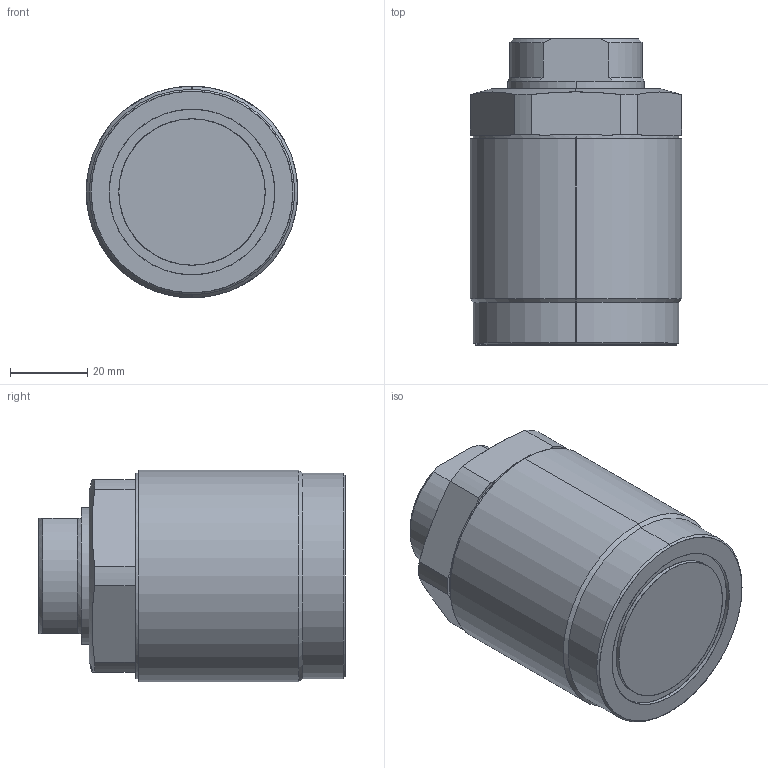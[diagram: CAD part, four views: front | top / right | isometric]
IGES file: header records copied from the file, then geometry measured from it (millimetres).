
Start section: SolidWorks IGES file using analytic representation for surfaces
Global section: file name: D:\karuppas\Clasp\3D model\Thread body cylinder\T03C-M556-M threaded pusher\T03C-M556-M threaded pusher.IGS; native system: SolidWorks 2017; preprocessor: SolidWorks 2017; author: pc; date: 220709.231542; units: millimetre
Bounding box: 55 x 79.5 x 55 mm (x, y, z)
Surface area: 23420.1 mm2 (no closed solid volume)
Topology: 0 solids, 0 shells, 261 faces, 3510 edges, 3508 vertices
Faces by surface type: bspline 225, revolution 36
